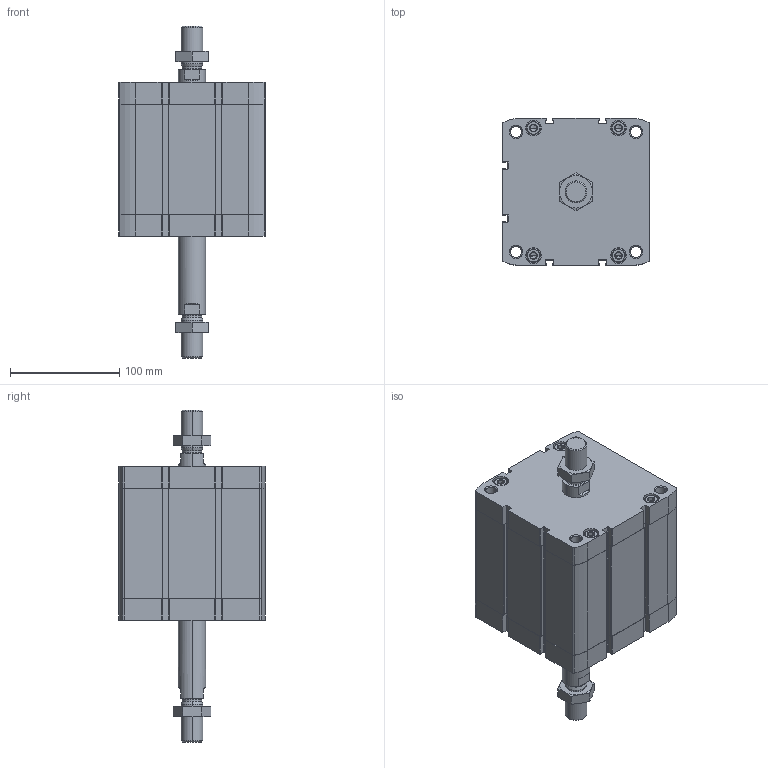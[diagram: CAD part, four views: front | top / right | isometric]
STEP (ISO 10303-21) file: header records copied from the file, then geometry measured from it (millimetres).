
FILE_DESCRIPTION (( 'STEP AP203' ), '1' );
FILE_NAME ('CCN125-60-P.STEP', '2020-06-22T19:15:11', ( '' ), ( '' ), 'SwSTEP 2.0', 'SolidWorks 2019', '' );
FILE_SCHEMA (( 'CONFIG_CONTROL_DESIGN' ));
Length unit declared in the file: millimetre
Products named in the file (1): CCN125-60-P
Bounding box: 134.6 x 134.6 x 304.4 mm (x, y, z)
Volume: 1808962.8 mm3; surface area: 269529.9 mm2
Topology: 4 solids, 4 shells, 592 faces, 1496 edges, 936 vertices
Faces by surface type: plane 288, cylinder 204, cone 92, torus 8
Entity records: 19603 total; most frequent: CARTESIAN_POINT 5061, DIRECTION 3146, ORIENTED_EDGE 2960, EDGE_CURVE 1480, AXIS2_PLACEMENT_3D 1165, VERTEX_POINT 936, LINE 816, VECTOR 816
